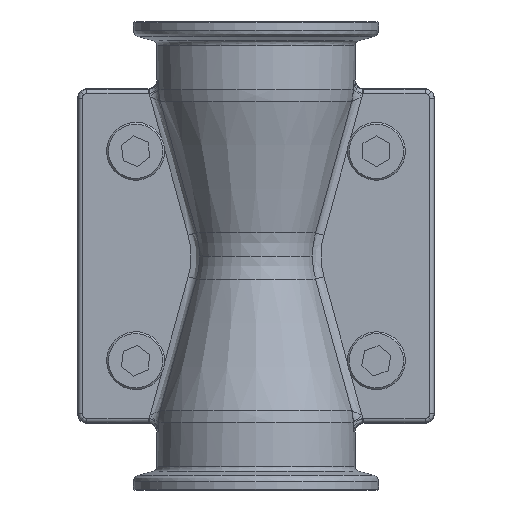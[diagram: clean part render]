
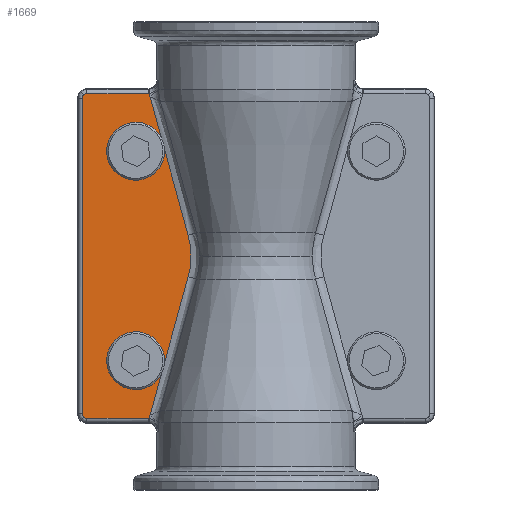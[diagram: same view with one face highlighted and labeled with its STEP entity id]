
A CAD part, front view. The second image highlights one B-rep face of the part: STEP entity #1669.
In plain terms, the highlighted planar face has unit normal (0, -1, 0).
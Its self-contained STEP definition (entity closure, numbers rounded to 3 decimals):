
#926=FACE_BOUND('',#2702,.T.);
#927=FACE_BOUND('',#2703,.T.);
#928=FACE_BOUND('',#2704,.T.);
#1021=ELLIPSE('',#6085,1.001,1.);
#1022=ELLIPSE('',#6086,1.001,1.);
#1023=ELLIPSE('',#6088,1.001,1.);
#1024=ELLIPSE('',#6089,1.001,1.);
#1196=LINE('',#9656,#1386);
#1197=LINE('',#9768,#1387);
#1198=LINE('',#9877,#1388);
#1200=LINE('',#10074,#1390);
#1203=LINE('',#11053,#1393);
#1386=VECTOR('',#6638,1.);
#1387=VECTOR('',#6645,1.);
#1388=VECTOR('',#6652,1.);
#1390=VECTOR('',#6656,1.);
#1393=VECTOR('',#6681,1.);
#1522=PLANE('',#6102);
#1669=ADVANCED_FACE('',(#926,#927,#928),#1522,.T.);
#2702=EDGE_LOOP('',(#3591,#3592));
#2703=EDGE_LOOP('',(#3593,#3594));
#2704=EDGE_LOOP('',(#3595,#3596,#3597,#3598,#3599,#3600,#3601,#3602,#3603,
#3604,#3605,#3606,#3607,#3608));
#2924=CIRCLE('',#6006,5.25);
#2926=CIRCLE('',#6008,5.25);
#2978=CIRCLE('',#6100,5.25);
#2979=CIRCLE('',#6101,5.25);
#3591=ORIENTED_EDGE('',*,*,#5056,.F.);
#3592=ORIENTED_EDGE('',*,*,#5052,.F.);
#3593=ORIENTED_EDGE('',*,*,#5299,.F.);
#3594=ORIENTED_EDGE('',*,*,#5300,.F.);
#3595=ORIENTED_EDGE('',*,*,#5298,.F.);
#3596=ORIENTED_EDGE('',*,*,#5238,.F.);
#3597=ORIENTED_EDGE('',*,*,#5240,.F.);
#3598=ORIENTED_EDGE('',*,*,#5242,.F.);
#3599=ORIENTED_EDGE('',*,*,#5244,.F.);
#3600=ORIENTED_EDGE('',*,*,#5246,.F.);
#3601=ORIENTED_EDGE('',*,*,#5248,.F.);
#3602=ORIENTED_EDGE('',*,*,#5250,.F.);
#3603=ORIENTED_EDGE('',*,*,#5252,.F.);
#3604=ORIENTED_EDGE('',*,*,#5254,.T.);
#3605=ORIENTED_EDGE('',*,*,#5258,.T.);
#3606=ORIENTED_EDGE('',*,*,#5280,.F.);
#3607=ORIENTED_EDGE('',*,*,#5263,.F.);
#3608=ORIENTED_EDGE('',*,*,#5260,.F.);
#4609=VERTEX_POINT('',#7461);
#4611=VERTEX_POINT('',#7465);
#4721=VERTEX_POINT('',#9477);
#4722=VERTEX_POINT('',#9618);
#4723=VERTEX_POINT('',#9655);
#4724=VERTEX_POINT('',#9665);
#4725=VERTEX_POINT('',#9716);
#4726=VERTEX_POINT('',#9767);
#4727=VERTEX_POINT('',#9777);
#4728=VERTEX_POINT('',#9828);
#4729=VERTEX_POINT('',#9876);
#4730=VERTEX_POINT('',#9886);
#4732=VERTEX_POINT('',#10073);
#4733=VERTEX_POINT('',#10093);
#4735=VERTEX_POINT('',#10101);
#4737=VERTEX_POINT('',#10176);
#4751=VERTEX_POINT('',#11058);
#4752=VERTEX_POINT('',#11059);
#5052=EDGE_CURVE('',#4611,#4609,#2924,.T.);
#5056=EDGE_CURVE('',#4609,#4611,#2926,.T.);
#5238=EDGE_CURVE('',#4722,#4721,#5816,.T.);
#5240=EDGE_CURVE('',#4723,#4722,#1196,.T.);
#5242=EDGE_CURVE('',#4724,#4723,#1021,.T.);
#5244=EDGE_CURVE('',#4725,#4724,#1022,.T.);
#5246=EDGE_CURVE('',#4726,#4725,#1197,.T.);
#5248=EDGE_CURVE('',#4727,#4726,#1023,.T.);
#5250=EDGE_CURVE('',#4728,#4727,#1024,.T.);
#5252=EDGE_CURVE('',#4729,#4728,#1198,.T.);
#5254=EDGE_CURVE('',#4729,#4730,#5822,.T.);
#5258=EDGE_CURVE('',#4730,#4732,#1200,.T.);
#5260=EDGE_CURVE('',#4733,#4735,#5824,.T.);
#5263=EDGE_CURVE('',#4735,#4737,#5827,.T.);
#5280=EDGE_CURVE('',#4737,#4732,#5837,.T.);
#5298=EDGE_CURVE('',#4721,#4733,#1203,.T.);
#5299=EDGE_CURVE('',#4751,#4752,#2978,.T.);
#5300=EDGE_CURVE('',#4752,#4751,#2979,.T.);
#5816=B_SPLINE_CURVE_WITH_KNOTS('',3,(#9619,#9620,#9621,#9622),
 .UNSPECIFIED.,.F.,.F.,(4,4),(0.,1.),.UNSPECIFIED.);
#5822=B_SPLINE_CURVE_WITH_KNOTS('',3,(#9887,#9888,#9889,#9890),
 .UNSPECIFIED.,.F.,.F.,(4,4),(0.,1.),.UNSPECIFIED.);
#5824=B_SPLINE_CURVE_WITH_KNOTS('',3,(#10095,#10096,#10097,#10098,#10099,
#10100),.UNSPECIFIED.,.F.,.F.,(4,2,4),(0.,0.5,1.),.UNSPECIFIED.);
#5827=B_SPLINE_CURVE_WITH_KNOTS('',3,(#10166,#10167,#10168,#10169,#10170,
#10171,#10172,#10173,#10174,#10175),.UNSPECIFIED.,.F.,.F.,(4,2,2,2,4),(0.,
0.25,0.375,0.5,1.),.UNSPECIFIED.);
#5837=B_SPLINE_CURVE_WITH_KNOTS('',3,(#10453,#10454,#10455,#10456,#10457,
#10458),.UNSPECIFIED.,.F.,.F.,(4,2,4),(0.,0.5,1.),.UNSPECIFIED.);
#6006=AXIS2_PLACEMENT_3D('',#7466,#6390,#6391);
#6008=AXIS2_PLACEMENT_3D('',#7479,#6399,#6400);
#6085=AXIS2_PLACEMENT_3D('',#9666,#6641,#6642);
#6086=AXIS2_PLACEMENT_3D('',#9717,#6643,#6644);
#6088=AXIS2_PLACEMENT_3D('',#9778,#6648,#6649);
#6089=AXIS2_PLACEMENT_3D('',#9829,#6650,#6651);
#6100=AXIS2_PLACEMENT_3D('',#11057,#6683,#6684);
#6101=AXIS2_PLACEMENT_3D('',#11060,#6685,#6686);
#6102=AXIS2_PLACEMENT_3D('',#11061,#6687,#6688);
#6390=DIRECTION('',(0.,-1.,0.));
#6391=DIRECTION('',(0.,0.,-1.));
#6399=DIRECTION('',(0.,-1.,0.));
#6400=DIRECTION('',(0.,0.,1.));
#6638=DIRECTION('',(1.,0.,0.));
#6641=DIRECTION('',(0.,1.,0.));
#6642=DIRECTION('',(0.707,0.,-0.707));
#6643=DIRECTION('',(0.,1.,0.));
#6644=DIRECTION('',(0.707,0.,-0.707));
#6645=DIRECTION('',(0.,0.,1.));
#6648=DIRECTION('',(0.,1.,0.));
#6649=DIRECTION('',(0.707,0.,0.707));
#6650=DIRECTION('',(0.,1.,0.));
#6651=DIRECTION('',(0.707,0.,0.707));
#6652=DIRECTION('',(-1.,0.,0.));
#6656=DIRECTION('',(0.,0.,1.));
#6681=DIRECTION('',(0.,0.,-1.));
#6683=DIRECTION('',(0.,-1.,0.));
#6684=DIRECTION('',(0.,0.,1.));
#6685=DIRECTION('',(0.,-1.,0.));
#6686=DIRECTION('',(0.,0.,-1.));
#6687=DIRECTION('',(0.,-1.,0.));
#6688=DIRECTION('',(0.,0.,-1.));
#7461=CARTESIAN_POINT('',(-27.,-2.7,-18.25));
#7465=CARTESIAN_POINT('',(-27.,-2.7,-28.75));
#7466=CARTESIAN_POINT('',(-27.,-2.7,-23.5));
#7479=CARTESIAN_POINT('',(-27.,-2.7,-23.5));
#9477=CARTESIAN_POINT('',(-23.79,-2.7,36.466));
#9618=CARTESIAN_POINT('',(-24.183,-2.7,36.44));
#9619=CARTESIAN_POINT('',(-24.183,-2.7,36.44));
#9620=CARTESIAN_POINT('',(-24.051,-2.7,36.44));
#9621=CARTESIAN_POINT('',(-23.92,-2.7,36.449));
#9622=CARTESIAN_POINT('',(-23.79,-2.7,36.466));
#9655=CARTESIAN_POINT('',(-37.941,-2.7,36.44));
#9656=CARTESIAN_POINT('',(-37.941,-2.7,36.44));
#9665=CARTESIAN_POINT('',(-38.647,-2.7,36.147));
#9666=CARTESIAN_POINT('',(-37.939,-2.7,35.439));
#9716=CARTESIAN_POINT('',(-38.94,-2.7,35.441));
#9717=CARTESIAN_POINT('',(-37.939,-2.7,35.439));
#9767=CARTESIAN_POINT('',(-38.94,-2.7,-35.441));
#9768=CARTESIAN_POINT('',(-38.94,-2.7,-35.441));
#9777=CARTESIAN_POINT('',(-38.647,-2.7,-36.147));
#9778=CARTESIAN_POINT('',(-37.939,-2.7,-35.439));
#9828=CARTESIAN_POINT('',(-37.941,-2.7,-36.44));
#9829=CARTESIAN_POINT('',(-37.939,-2.7,-35.439));
#9876=CARTESIAN_POINT('',(-24.183,-2.7,-36.44));
#9877=CARTESIAN_POINT('',(-24.183,-2.7,-36.44));
#9886=CARTESIAN_POINT('',(-23.79,-2.7,-36.466));
#9887=CARTESIAN_POINT('',(-24.183,-2.7,-36.44));
#9888=CARTESIAN_POINT('',(-24.051,-2.7,-36.44));
#9889=CARTESIAN_POINT('',(-23.92,-2.7,-36.449));
#9890=CARTESIAN_POINT('',(-23.79,-2.7,-36.466));
#10073=CARTESIAN_POINT('',(-23.79,-2.7,-35.737));
#10074=CARTESIAN_POINT('',(-23.79,-2.7,-36.466));
#10093=CARTESIAN_POINT('',(-23.79,-2.7,35.737));
#10095=CARTESIAN_POINT('',(-23.79,-2.7,35.737));
#10096=CARTESIAN_POINT('',(-22.374,-2.7,30.553));
#10097=CARTESIAN_POINT('',(-20.954,-2.7,25.371));
#10098=CARTESIAN_POINT('',(-18.099,-2.7,15.011));
#10099=CARTESIAN_POINT('',(-16.664,-2.7,9.832));
#10100=CARTESIAN_POINT('',(-15.213,-2.7,4.659));
#10101=CARTESIAN_POINT('',(-15.213,-2.7,4.659));
#10166=CARTESIAN_POINT('',(-15.213,-2.7,4.659));
#10167=CARTESIAN_POINT('',(-14.999,-2.7,3.895));
#10168=CARTESIAN_POINT('',(-14.838,-2.7,3.121));
#10169=CARTESIAN_POINT('',(-14.676,-2.7,1.945));
#10170=CARTESIAN_POINT('',(-14.636,-2.7,1.549));
#10171=CARTESIAN_POINT('',(-14.582,-2.7,0.762));
#10172=CARTESIAN_POINT('',(-14.57,-2.7,0.37));
#10173=CARTESIAN_POINT('',(-14.572,-2.7,-1.585));
#10174=CARTESIAN_POINT('',(-14.785,-2.7,-3.131));
#10175=CARTESIAN_POINT('',(-15.213,-2.7,-4.659));
#10176=CARTESIAN_POINT('',(-15.213,-2.7,-4.659));
#10453=CARTESIAN_POINT('',(-15.213,-2.7,-4.659));
#10454=CARTESIAN_POINT('',(-16.664,-2.7,-9.832));
#10455=CARTESIAN_POINT('',(-18.099,-2.7,-15.011));
#10456=CARTESIAN_POINT('',(-20.954,-2.7,-25.371));
#10457=CARTESIAN_POINT('',(-22.374,-2.7,-30.553));
#10458=CARTESIAN_POINT('',(-23.79,-2.7,-35.737));
#11053=CARTESIAN_POINT('',(-23.79,-2.7,36.466));
#11057=CARTESIAN_POINT('',(-27.,-2.7,23.5));
#11058=CARTESIAN_POINT('',(-27.,-2.7,28.75));
#11059=CARTESIAN_POINT('',(-27.,-2.7,18.25));
#11060=CARTESIAN_POINT('',(-27.,-2.7,23.5));
#11061=CARTESIAN_POINT('',(-40.,-2.7,40.112));
